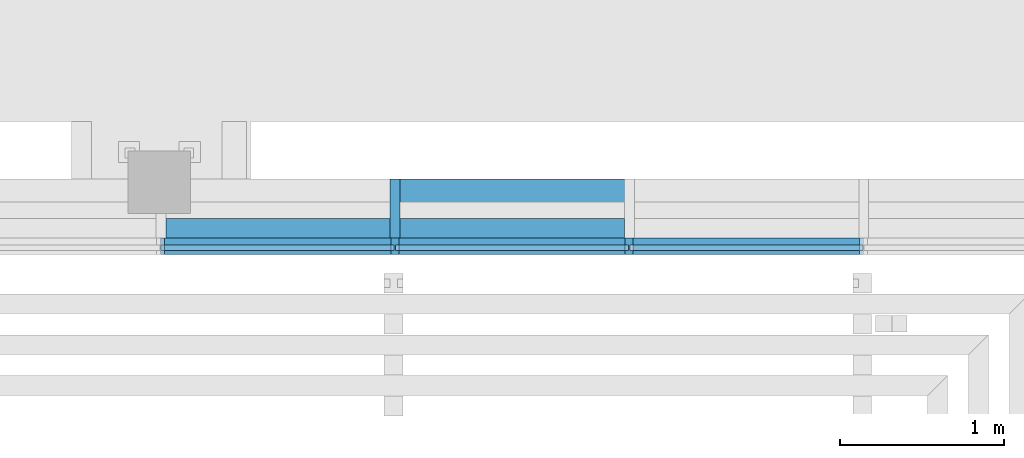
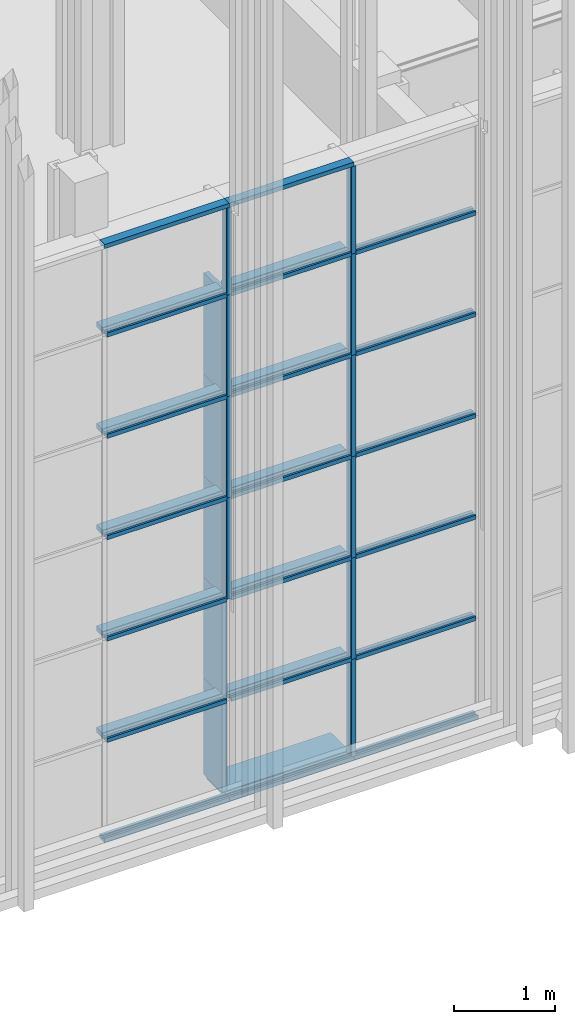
# One storey, part 17 of 260: 46 members, 2 elements without a shape of their own.
"""IFC2X3 building model written with IfcOpenShell, lengths in millimetres."""

from ifc_helpers import new_model, entity, si_unit, converted_unit, derived_unit, money_unit, direction, frame, origin_with_axes, place, context, subcontext, project, spatial, faceted_brep, source, transform, mapped, material, type_object, element, aggregate, save


model = new_model("IFC2X3")

# Units and contexts
model_context = context("Model", 3, precision=0.01, world=origin_with_axes(), true_north=direction((0.0, 1.0)))
body_context = subcontext(model_context, "Body", "Model", "MODEL_VIEW")
ifc_project = project(units=[si_unit("LENGTHUNIT", "METRE", prefix="MILLI"), si_unit("AREAUNIT", "SQUARE_METRE"), si_unit("VOLUMEUNIT", "CUBIC_METRE"), converted_unit("PLANEANGLEUNIT", "DEGREE", entity("IfcPlaneAngleMeasure", 0.0174532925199), si_unit("PLANEANGLEUNIT", "RADIAN"), dimensions=[0, 0, 0, 0, 0, 0, 0]), money_unit("EUR"), converted_unit("TIMEUNIT", "Year", entity("IfcTimeMeasure", 31556926.0), si_unit("TIMEUNIT", "SECOND"), dimensions=[0, 0, 1, 0, 0, 0, 0]), si_unit("MASSUNIT", "GRAM", prefix="KILO"), si_unit("THERMODYNAMICTEMPERATUREUNIT", "DEGREE_CELSIUS"), si_unit("LUMINOUSINTENSITYUNIT", "LUMEN"), si_unit("ENERGYUNIT", "JOULE", prefix="MEGA"), derived_unit("THERMALCONDUCTANCEUNIT", [(si_unit("POWERUNIT", "WATT"), 1), (si_unit("LENGTHUNIT", "METRE"), -1), (si_unit("THERMODYNAMICTEMPERATUREUNIT", "KELVIN"), -1)]), derived_unit("SPECIFICHEATCAPACITYUNIT", [(si_unit("ENERGYUNIT", "JOULE"), 1), (si_unit("MASSUNIT", "GRAM", prefix="KILO"), -1), (si_unit("THERMODYNAMICTEMPERATUREUNIT", "KELVIN"), -1)]), derived_unit("MASSDENSITYUNIT", [(si_unit("MASSUNIT", "GRAM", prefix="KILO"), 1), (si_unit("VOLUMEUNIT", "CUBIC_METRE"), -1)])], contexts=[model_context])

# Site, building, storey
site_placement = place(None, origin_with_axes())
site = spatial("IfcSite", under=ifc_project, at=site_placement, Name="Kolde pst 67a", CompositionType="ELEMENT")
building_placement = place(site_placement, origin_with_axes())
building = spatial("IfcBuilding", under=site, at=building_placement, Name="Riigigümnaasium", CompositionType="ELEMENT")
storey_placement = place(building_placement, origin_with_axes())
storey = spatial("IfcBuildingStorey", under=building, at=storey_placement, Name="1. korrus", CompositionType="ELEMENT", Elevation=0.0)

# Curtain wall, members
curtain_wall_type = type_object("IfcCurtainWallType", Name="Curtain Wall Type", PredefinedType="NOTDEFINED")
curtain_wall_1_placement = place(storey_placement, frame((47829.9854655, 8727.77020058, -0.000749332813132), z_axis=(0.0, 0.0, 1.0), x_axis=(1.0, 0.0, 0.0)))
curtain_wall_1 = element("IfcCurtainWall", 1, at=curtain_wall_1_placement, inside=storey, type_object=curtain_wall_type, Name="KLAASFASSAAD")
ifc_material_1 = material(Name="_METALL - alumiinium")
member_type_1 = type_object("IfcMemberType", Name="Mullion Frame 50 x 100", PredefinedType="MEMBER")
shared_shape_1 = source(origin_with_axes(), body_context, "Body", "Brep", [
    faceted_brep([(5.0, -16.5, 1230.00046362), (5.0, 16.5, 1230.00046362), (25.0, 16.5, 1230.00046362), (25.0, 40.0, 1230.00046362), (-25.0, 40.0, 1230.00046362), (-25.0, 16.5, 1230.00046362), (-5.0, 16.5, 1230.00046362), (-5.0, -16.5, 1230.00046362), (-25.0, -16.5, 1230.00046362), (-25.0, -60.0, 1230.00046362), (25.0, -60.0, 1230.00046362), (25.0, -16.5, 1230.00046362), (5.0, -16.5, 50.0), (5.0, 16.5, 50.0), (25.0, 16.5, 50.0), (25.0, 40.0, 50.0), (-25.0, 40.0, 50.0), (-25.0, 16.5, 50.0), (-5.0, 16.5, 50.0), (-5.0, -16.5, 50.0), (-25.0, -16.5, 50.0), (-25.0, -60.0, 50.0), (25.0, -60.0, 50.0), (25.0, -16.5, 50.0)], [[[0, 1, 2, 3, 4, 5, 6, 7, 8, 9, 10, 11]], [[0, 12, 13, 1]], [[1, 13, 14, 2]], [[14, 15, 3, 2]], [[4, 3, 15, 16]], [[17, 5, 4, 16]], [[5, 17, 18, 6]], [[7, 6, 18, 19]], [[8, 7, 19, 20]], [[8, 20, 21, 9]], [[10, 9, 21, 22]], [[11, 10, 22, 23]], [[11, 23, 12, 0]], [[13, 12, 23, 22, 21, 20, 19, 18, 17, 16, 15, 14]]]),
])
member_1_placement = place(curtain_wall_1_placement, frame((-2722.41506415, 15102.2610098, 0.000285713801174), z_axis=(0.0, 0.0, 1.0), x_axis=(0.999999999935, -1.14108152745e-05, 0.0)))
member_1 = element("IfcMember", 2, at=member_1_placement, type_object=member_type_1, material=ifc_material_1, Name="RF RAAM VERT-059", ObjectType="MEMBER", context=body_context, shape_type="MappedRepresentation", body=[
    mapped(shared_shape_1, transform((0.0, 0.0, 0.0), x_axis=(-1.0, 0.0, 0.0), y_axis=(0.0, -1.0, 0.0), z_axis=(0.0, 0.0, 1.0))),
])
shared_shape_2 = source(origin_with_axes(), body_context, "Body", "Brep", [
    faceted_brep([(5.0, -16.5, 1230.0), (5.0, 16.5, 1230.0), (25.0, 16.5, 1230.0), (25.0, 40.0, 1230.0), (-25.0, 40.0, 1230.0), (-25.0, 16.5, 1230.0), (-5.0, 16.5, 1230.0), (-5.0, -16.5, 1230.0), (-25.0, -16.5, 1230.0), (-25.0, -60.0, 1230.0), (25.0, -60.0, 1230.0), (25.0, -16.5, 1230.0), (5.0, -16.5, 0.0), (5.0, 16.5, 0.0), (25.0, 16.5, 0.0), (25.0, 40.0, 0.0), (-25.0, 40.0, 0.0), (-25.0, 16.5, 0.0), (-5.0, 16.5, 0.0), (-5.0, -16.5, 0.0), (-25.0, -16.5, 0.0), (-25.0, -60.0, 0.0), (25.0, -60.0, 0.0), (25.0, -16.5, 0.0)], [[[0, 1, 2, 3, 4, 5, 6, 7, 8, 9, 10, 11]], [[0, 12, 13, 1]], [[1, 13, 14, 2]], [[14, 15, 3, 2]], [[3, 15, 16, 4]], [[17, 5, 4, 16]], [[5, 17, 18, 6]], [[7, 6, 18, 19]], [[8, 7, 19, 20]], [[8, 20, 21, 9]], [[9, 21, 22, 10]], [[11, 10, 22, 23]], [[11, 23, 12, 0]], [[13, 12, 23, 22, 21, 20, 19, 18, 17, 16, 15, 14]]]),
])
member_2_placement = place(curtain_wall_1_placement, frame((-2722.41506415, 15102.2610098, 1230.00074933), z_axis=(0.0, 0.0, 1.0), x_axis=(0.999999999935, -1.14108152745e-05, 0.0)))
member_2 = element("IfcMember", 3, at=member_2_placement, type_object=member_type_1, material=ifc_material_1, Name="RF RAAM VERT-060", ObjectType="MEMBER", context=body_context, shape_type="MappedRepresentation", body=[
    mapped(shared_shape_2, transform((0.0, 0.0, 0.0), x_axis=(-1.0, 0.0, 0.0), y_axis=(0.0, -1.0, 0.0), z_axis=(0.0, 0.0, 1.0))),
])
member_3_placement = place(curtain_wall_1_placement, frame((-2722.41506415, 15102.2610098, 2460.00074933), z_axis=(0.0, 0.0, 1.0), x_axis=(0.999999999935, -1.14108152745e-05, 0.0)))
member_3 = element("IfcMember", 4, at=member_3_placement, type_object=member_type_1, material=ifc_material_1, Name="RF RAAM VERT-061", ObjectType="MEMBER", context=body_context, shape_type="MappedRepresentation", body=[
    mapped(shared_shape_2, transform((0.0, 0.0, 0.0), x_axis=(-1.0, 0.0, 0.0), y_axis=(0.0, -1.0, 0.0), z_axis=(0.0, 0.0, 1.0))),
])
member_4_placement = place(curtain_wall_1_placement, frame((-2722.41506415, 15102.2610098, 3690.00074933), z_axis=(0.0, 0.0, 1.0), x_axis=(0.999999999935, -1.14108152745e-05, 0.0)))
member_4 = element("IfcMember", 5, at=member_4_placement, type_object=member_type_1, material=ifc_material_1, Name="RF RAAM VERT-062", ObjectType="MEMBER", context=body_context, shape_type="MappedRepresentation", body=[
    mapped(shared_shape_2, transform((0.0, 0.0, 0.0), x_axis=(-1.0, 0.0, 0.0), y_axis=(0.0, -1.0, 0.0), z_axis=(0.0, 0.0, 1.0))),
])
member_5_placement = place(curtain_wall_1_placement, frame((-2722.41506415, 15102.2610098, 4920.00074933), z_axis=(0.0, 0.0, 1.0), x_axis=(0.999999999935, -1.14108152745e-05, 0.0)))
member_5 = element("IfcMember", 6, at=member_5_placement, type_object=member_type_1, material=ifc_material_1, Name="RF RAAM VERT-063", ObjectType="MEMBER", context=body_context, shape_type="MappedRepresentation", body=[
    mapped(shared_shape_2, transform((0.0, 0.0, 0.0), x_axis=(-1.0, 0.0, 0.0), y_axis=(0.0, -1.0, 0.0), z_axis=(0.0, 0.0, 1.0))),
])
member_6_placement = place(curtain_wall_1_placement, frame((-4152.41506405, 15102.2773272, 2460.00074933), z_axis=(0.0, 0.0, 1.0), x_axis=(0.999999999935, -1.14108152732e-05, 0.0)))
member_6 = element("IfcMember", 7, at=member_6_placement, type_object=member_type_1, material=ifc_material_1, Name="RF RAAM VERT-067", ObjectType="MEMBER", context=body_context, shape_type="MappedRepresentation", body=[
    mapped(shared_shape_2, transform((0.0, 0.0, 0.0), x_axis=(-1.0, 0.0, 0.0), y_axis=(0.0, -1.0, 0.0), z_axis=(0.0, 0.0, 1.0))),
])
member_7_placement = place(curtain_wall_1_placement, frame((-4152.41506405, 15102.2773272, 3690.00074933), z_axis=(0.0, 0.0, 1.0), x_axis=(0.999999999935, -1.14108152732e-05, 0.0)))
member_7 = element("IfcMember", 8, at=member_7_placement, type_object=member_type_1, material=ifc_material_1, Name="RF RAAM VERT-068", ObjectType="MEMBER", context=body_context, shape_type="MappedRepresentation", body=[
    mapped(shared_shape_2, transform((0.0, 0.0, 0.0), x_axis=(-1.0, 0.0, 0.0), y_axis=(0.0, -1.0, 0.0), z_axis=(0.0, 0.0, 1.0))),
])
member_8_placement = place(curtain_wall_1_placement, frame((-4152.41506405, 15102.2773272, 4920.00074933), z_axis=(0.0, 0.0, 1.0), x_axis=(0.999999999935, -1.14108152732e-05, 0.0)))
member_8 = element("IfcMember", 9, at=member_8_placement, type_object=member_type_1, material=ifc_material_1, Name="RF RAAM VERT-069", ObjectType="MEMBER", context=body_context, shape_type="MappedRepresentation", body=[
    mapped(shared_shape_2, transform((0.0, 0.0, 0.0), x_axis=(-1.0, 0.0, 0.0), y_axis=(0.0, -1.0, 0.0), z_axis=(0.0, 0.0, 1.0))),
])
member_type_2 = type_object("IfcMemberType", Name="Boundary Frame 50 x 100", PredefinedType="MEMBER")
shared_shape_3 = source(origin_with_axes(), body_context, "Body", "Brep", [
    faceted_brep([(-30.0, -16.5, 1430.0), (-50.0, -16.5, 1430.0), (-50.0, -60.0, 1430.0), (0.0, -60.0, 1430.0), (0.0, 40.0, 1430.0), (-50.0, 40.0, 1430.0), (-50.0, 16.5, 1430.0), (-30.0, 16.5, 1430.0), (-30.0, -16.5, 0.0), (-50.0, -16.5, 0.0), (-50.0, -60.0, 0.0), (0.0, -60.0, 0.0), (0.0, 40.0, 0.0), (-50.0, 40.0, 0.0), (-50.0, 16.5, 0.0), (-30.0, 16.5, 0.0)], [[[0, 1, 2, 3, 4, 5, 6, 7]], [[0, 8, 9, 1]], [[9, 10, 2, 1]], [[10, 11, 3, 2]], [[11, 12, 4, 3]], [[12, 13, 5, 4]], [[6, 5, 13, 14]], [[14, 15, 7, 6]], [[7, 15, 8, 0]], [[8, 15, 14, 13, 12, 11, 10, 9]]]),
])
member_9_placement = place(curtain_wall_1_placement, frame((-1292.41506424, 15102.2446923, 0.000285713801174), z_axis=(-0.999999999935, 1.14108152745e-05, 0.0), x_axis=(0.0, 0.0, 1.0)))
member_9 = element("IfcMember", 10, at=member_9_placement, type_object=member_type_2, material=ifc_material_1, Name="RF RAAM SERV-590", ObjectType="MEMBER", context=body_context, shape_type="MappedRepresentation", body=[
    mapped(shared_shape_3, transform((0.0, 0.0, 0.0), x_axis=(-1.0, 0.0, 0.0), y_axis=(0.0, -1.0, 0.0), z_axis=(0.0, 0.0, 1.0))),
])
member_10_placement = place(curtain_wall_1_placement, frame((-2722.41506415, 15102.2610098, 0.000285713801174), z_axis=(-0.999999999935, 1.14108152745e-05, 0.0), x_axis=(0.0, 0.0, 1.0)))
member_10 = element("IfcMember", 11, at=member_10_placement, type_object=member_type_2, material=ifc_material_1, Name="RF RAAM SERV-591", ObjectType="MEMBER", context=body_context, shape_type="MappedRepresentation", body=[
    mapped(shared_shape_3, transform((0.0, 0.0, 0.0), x_axis=(-1.0, 0.0, 0.0), y_axis=(0.0, -1.0, 0.0), z_axis=(0.0, 0.0, 1.0))),
])
member_11_placement = place(curtain_wall_1_placement, frame((-4152.41506405, 15102.2773272, 0.000285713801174), z_axis=(-0.999999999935, 1.1410815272e-05, 0.0), x_axis=(0.0, 0.0, 1.0)))
member_11 = element("IfcMember", 12, at=member_11_placement, type_object=member_type_2, material=ifc_material_1, Name="RF RAAM SERV-592", ObjectType="MEMBER", context=body_context, shape_type="MappedRepresentation", body=[
    mapped(shared_shape_3, transform((0.0, 0.0, 0.0), x_axis=(-1.0, 0.0, 0.0), y_axis=(0.0, -1.0, 0.0), z_axis=(0.0, 0.0, 1.0))),
])
member_12_placement = place(curtain_wall_1_placement, frame((-4152.41506405, 15102.2773272, 7259.99992735), z_axis=(0.999999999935, -1.14108152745e-05, 0.0), x_axis=(0.0, 0.0, -1.0)))
member_12 = element("IfcMember", 13, at=member_12_placement, type_object=member_type_2, material=ifc_material_1, Name="RF RAAM SERV-626", ObjectType="MEMBER", context=body_context, shape_type="MappedRepresentation", body=[
    mapped(shared_shape_3, transform((0.0, 0.0, 0.0), x_axis=(-1.0, 0.0, 0.0), y_axis=(0.0, -1.0, 0.0), z_axis=(0.0, 0.0, 1.0))),
])
member_13_placement = place(curtain_wall_1_placement, frame((-5582.41506396, 15102.2936447, 7259.99992735), z_axis=(0.999999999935, -1.1410815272e-05, 0.0), x_axis=(0.0, 0.0, -1.0)))
member_13 = element("IfcMember", 14, at=member_13_placement, type_object=member_type_2, material=ifc_material_1, Name="RF RAAM SERV-625", ObjectType="MEMBER", context=body_context, shape_type="MappedRepresentation", body=[
    mapped(shared_shape_3, transform((0.0, 0.0, 0.0), x_axis=(-1.0, 0.0, 0.0), y_axis=(0.0, -1.0, 0.0), z_axis=(0.0, 0.0, 1.0))),
])
member_type_3 = type_object("IfcMemberType", Name="Transom Frame 50 x 100", PredefinedType="MEMBER")
shared_shape_4 = source(origin_with_axes(), body_context, "Body", "Brep", [
    faceted_brep([(5.0, -16.5, 1405.0), (5.0, 16.5, 1405.0), (25.0, 16.5, 1405.0), (25.0, 40.0, 1405.0), (-25.0, 40.0, 1405.0), (-25.0, 16.5, 1405.0), (-5.0, 16.5, 1405.0), (-5.0, -16.5, 1405.0), (-25.0, -16.5, 1405.0), (-25.0, -60.0, 1405.0), (25.0, -60.0, 1405.0), (25.0, -16.5, 1405.0), (5.0, -16.5, 25.0), (5.0, 16.5, 25.0), (25.0, 16.5, 25.0), (25.0, 40.0, 25.0), (-25.0, 40.0, 25.0), (-25.0, 16.5, 25.0), (-5.0, 16.5, 25.0), (-5.0, -16.5, 25.0), (-25.0, -16.5, 25.0), (-25.0, -60.0, 25.0), (25.0, -60.0, 25.0), (25.0, -16.5, 25.0)], [[[0, 1, 2, 3, 4, 5, 6, 7, 8, 9, 10, 11]], [[0, 12, 13, 1]], [[1, 13, 14, 2]], [[14, 15, 3, 2]], [[4, 3, 15, 16]], [[17, 5, 4, 16]], [[5, 17, 18, 6]], [[7, 6, 18, 19]], [[8, 7, 19, 20]], [[8, 20, 21, 9]], [[10, 9, 21, 22]], [[11, 10, 22, 23]], [[11, 23, 12, 0]], [[13, 12, 23, 22, 21, 20, 19, 18, 17, 16, 15, 14]]]),
])
member_14_placement = place(curtain_wall_1_placement, frame((-1292.41506424, 15102.2446923, 1230.00074933), z_axis=(-0.999999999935, 1.14108152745e-05, 0.0), x_axis=(0.0, 0.0, 1.0)))
member_14 = element("IfcMember", 15, at=member_14_placement, type_object=member_type_3, material=ifc_material_1, Name="RF RAAM HOR-026", ObjectType="MEMBER", context=body_context, shape_type="MappedRepresentation", body=[
    mapped(shared_shape_4, transform((0.0, 0.0, 0.0), x_axis=(-1.0, 0.0, 0.0), y_axis=(0.0, -1.0, 0.0), z_axis=(0.0, 0.0, 1.0))),
])
member_15_placement = place(curtain_wall_1_placement, frame((-2722.41506415, 15102.2610098, 1230.00074933), z_axis=(-0.999999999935, 1.14108152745e-05, 0.0), x_axis=(0.0, 0.0, 1.0)))
member_15 = element("IfcMember", 16, at=member_15_placement, type_object=member_type_3, material=ifc_material_1, Name="RF RAAM HOR-027", ObjectType="MEMBER", context=body_context, shape_type="MappedRepresentation", body=[
    mapped(shared_shape_4, transform((0.0, 0.0, 0.0), x_axis=(-1.0, 0.0, 0.0), y_axis=(0.0, -1.0, 0.0), z_axis=(0.0, 0.0, 1.0))),
])
member_16_placement = place(curtain_wall_1_placement, frame((-4152.41506405, 15102.2773272, 1230.00074933), z_axis=(-0.999999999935, 1.1410815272e-05, 0.0), x_axis=(0.0, 0.0, 1.0)))
member_16 = element("IfcMember", 17, at=member_16_placement, type_object=member_type_3, material=ifc_material_1, Name="RF RAAM HOR-028", ObjectType="MEMBER", context=body_context, shape_type="MappedRepresentation", body=[
    mapped(shared_shape_4, transform((0.0, 0.0, 0.0), x_axis=(-1.0, 0.0, 0.0), y_axis=(0.0, -1.0, 0.0), z_axis=(0.0, 0.0, 1.0))),
])
member_17_placement = place(curtain_wall_1_placement, frame((-1292.41506424, 15102.2446923, 2460.00074933), z_axis=(-0.999999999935, 1.14108152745e-05, 0.0), x_axis=(0.0, 0.0, 1.0)))
member_17 = element("IfcMember", 18, at=member_17_placement, type_object=member_type_3, material=ifc_material_1, Name="RF RAAM HOR-043", ObjectType="MEMBER", context=body_context, shape_type="MappedRepresentation", body=[
    mapped(shared_shape_4, transform((0.0, 0.0, 0.0), x_axis=(-1.0, 0.0, 0.0), y_axis=(0.0, -1.0, 0.0), z_axis=(0.0, 0.0, 1.0))),
])
member_18_placement = place(curtain_wall_1_placement, frame((-2722.41506415, 15102.2610098, 2460.00074933), z_axis=(-0.999999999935, 1.14108152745e-05, 0.0), x_axis=(0.0, 0.0, 1.0)))
member_18 = element("IfcMember", 19, at=member_18_placement, type_object=member_type_3, material=ifc_material_1, Name="RF RAAM HOR-044", ObjectType="MEMBER", context=body_context, shape_type="MappedRepresentation", body=[
    mapped(shared_shape_4, transform((0.0, 0.0, 0.0), x_axis=(-1.0, 0.0, 0.0), y_axis=(0.0, -1.0, 0.0), z_axis=(0.0, 0.0, 1.0))),
])
member_19_placement = place(curtain_wall_1_placement, frame((-4152.41506405, 15102.2773272, 2460.00074933), z_axis=(-0.999999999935, 1.1410815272e-05, 0.0), x_axis=(0.0, 0.0, 1.0)))
member_19 = element("IfcMember", 20, at=member_19_placement, type_object=member_type_3, material=ifc_material_1, Name="RF RAAM HOR-045", ObjectType="MEMBER", context=body_context, shape_type="MappedRepresentation", body=[
    mapped(shared_shape_4, transform((0.0, 0.0, 0.0), x_axis=(-1.0, 0.0, 0.0), y_axis=(0.0, -1.0, 0.0), z_axis=(0.0, 0.0, 1.0))),
])
member_20_placement = place(curtain_wall_1_placement, frame((-1292.41506424, 15102.2446923, 3690.00074933), z_axis=(-0.999999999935, 1.14108152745e-05, 0.0), x_axis=(0.0, 0.0, 1.0)))
member_20 = element("IfcMember", 21, at=member_20_placement, type_object=member_type_3, material=ifc_material_1, Name="RF RAAM HOR-060", ObjectType="MEMBER", context=body_context, shape_type="MappedRepresentation", body=[
    mapped(shared_shape_4, transform((0.0, 0.0, 0.0), x_axis=(-1.0, 0.0, 0.0), y_axis=(0.0, -1.0, 0.0), z_axis=(0.0, 0.0, 1.0))),
])
member_21_placement = place(curtain_wall_1_placement, frame((-2722.41506415, 15102.2610098, 3690.00074933), z_axis=(-0.999999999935, 1.14108152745e-05, 0.0), x_axis=(0.0, 0.0, 1.0)))
member_21 = element("IfcMember", 22, at=member_21_placement, type_object=member_type_3, material=ifc_material_1, Name="RF RAAM HOR-061", ObjectType="MEMBER", context=body_context, shape_type="MappedRepresentation", body=[
    mapped(shared_shape_4, transform((0.0, 0.0, 0.0), x_axis=(-1.0, 0.0, 0.0), y_axis=(0.0, -1.0, 0.0), z_axis=(0.0, 0.0, 1.0))),
])
member_22_placement = place(curtain_wall_1_placement, frame((-4152.41506405, 15102.2773272, 3690.00074933), z_axis=(-0.999999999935, 1.1410815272e-05, 0.0), x_axis=(0.0, 0.0, 1.0)))
member_22 = element("IfcMember", 23, at=member_22_placement, type_object=member_type_3, material=ifc_material_1, Name="RF RAAM HOR-062", ObjectType="MEMBER", context=body_context, shape_type="MappedRepresentation", body=[
    mapped(shared_shape_4, transform((0.0, 0.0, 0.0), x_axis=(-1.0, 0.0, 0.0), y_axis=(0.0, -1.0, 0.0), z_axis=(0.0, 0.0, 1.0))),
])
member_23_placement = place(curtain_wall_1_placement, frame((-1292.41506424, 15102.2446923, 4920.00074933), z_axis=(-0.999999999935, 1.14108152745e-05, 0.0), x_axis=(0.0, 0.0, 1.0)))
member_23 = element("IfcMember", 24, at=member_23_placement, type_object=member_type_3, material=ifc_material_1, Name="RF RAAM HOR-077", ObjectType="MEMBER", context=body_context, shape_type="MappedRepresentation", body=[
    mapped(shared_shape_4, transform((0.0, 0.0, 0.0), x_axis=(-1.0, 0.0, 0.0), y_axis=(0.0, -1.0, 0.0), z_axis=(0.0, 0.0, 1.0))),
])
member_24_placement = place(curtain_wall_1_placement, frame((-2722.41506415, 15102.2610098, 4920.00074933), z_axis=(-0.999999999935, 1.14108152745e-05, 0.0), x_axis=(0.0, 0.0, 1.0)))
member_24 = element("IfcMember", 25, at=member_24_placement, type_object=member_type_3, material=ifc_material_1, Name="RF RAAM HOR-078", ObjectType="MEMBER", context=body_context, shape_type="MappedRepresentation", body=[
    mapped(shared_shape_4, transform((0.0, 0.0, 0.0), x_axis=(-1.0, 0.0, 0.0), y_axis=(0.0, -1.0, 0.0), z_axis=(0.0, 0.0, 1.0))),
])
member_25_placement = place(curtain_wall_1_placement, frame((-4152.41506405, 15102.2773272, 4920.00074933), z_axis=(-0.999999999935, 1.1410815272e-05, 0.0), x_axis=(0.0, 0.0, 1.0)))
member_25 = element("IfcMember", 26, at=member_25_placement, type_object=member_type_3, material=ifc_material_1, Name="RF RAAM HOR-079", ObjectType="MEMBER", context=body_context, shape_type="MappedRepresentation", body=[
    mapped(shared_shape_4, transform((0.0, 0.0, 0.0), x_axis=(-1.0, 0.0, 0.0), y_axis=(0.0, -1.0, 0.0), z_axis=(0.0, 0.0, 1.0))),
])
member_26_placement = place(curtain_wall_1_placement, frame((-1292.41506424, 15102.2446923, 6150.00074933), z_axis=(-0.999999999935, 1.14108152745e-05, 0.0), x_axis=(0.0, 0.0, 1.0)))
member_26 = element("IfcMember", 27, at=member_26_placement, type_object=member_type_3, material=ifc_material_1, Name="RF RAAM HOR-094", ObjectType="MEMBER", context=body_context, shape_type="MappedRepresentation", body=[
    mapped(shared_shape_4, transform((0.0, 0.0, 0.0), x_axis=(-1.0, 0.0, 0.0), y_axis=(0.0, -1.0, 0.0), z_axis=(0.0, 0.0, 1.0))),
])
member_27_placement = place(curtain_wall_1_placement, frame((-2722.41506415, 15102.2610098, 6150.00074933), z_axis=(-0.999999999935, 1.14108152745e-05, 0.0), x_axis=(0.0, 0.0, 1.0)))
member_27 = element("IfcMember", 28, at=member_27_placement, type_object=member_type_3, material=ifc_material_1, Name="RF RAAM HOR-095", ObjectType="MEMBER", context=body_context, shape_type="MappedRepresentation", body=[
    mapped(shared_shape_4, transform((0.0, 0.0, 0.0), x_axis=(-1.0, 0.0, 0.0), y_axis=(0.0, -1.0, 0.0), z_axis=(0.0, 0.0, 1.0))),
])
member_28_placement = place(curtain_wall_1_placement, frame((-4152.41506405, 15102.2773272, 6150.00074933), z_axis=(-0.999999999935, 1.1410815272e-05, 0.0), x_axis=(0.0, 0.0, 1.0)))
member_28 = element("IfcMember", 29, at=member_28_placement, type_object=member_type_3, material=ifc_material_1, Name="RF RAAM HOR-096", ObjectType="MEMBER", context=body_context, shape_type="MappedRepresentation", body=[
    mapped(shared_shape_4, transform((0.0, 0.0, 0.0), x_axis=(-1.0, 0.0, 0.0), y_axis=(0.0, -1.0, 0.0), z_axis=(0.0, 0.0, 1.0))),
])
shared_shape_5 = source(origin_with_axes(), body_context, "Body", "Brep", [
    faceted_brep([(5.0, -16.5, 1059.99917802), (5.0, 16.5, 1059.99917802), (25.0, 16.5, 1059.99917802), (25.0, 40.0, 1059.99917802), (-25.0, 40.0, 1059.99917802), (-25.0, 16.5, 1059.99917802), (-5.0, 16.5, 1059.99917802), (-5.0, -16.5, 1059.99917802), (-25.0, -16.5, 1059.99917802), (-25.0, -60.0, 1059.99917802), (25.0, -60.0, 1059.99917802), (25.0, -16.5, 1059.99917802), (5.0, -16.5, 0.0), (5.0, 16.5, 0.0), (25.0, 16.5, 0.0), (25.0, 40.0, 0.0), (-25.0, 40.0, 0.0), (-25.0, 16.5, 0.0), (-5.0, 16.5, 0.0), (-5.0, -16.5, 0.0), (-25.0, -16.5, 0.0), (-25.0, -60.0, 0.0), (25.0, -60.0, 0.0), (25.0, -16.5, 0.0)], [[[0, 1, 2, 3, 4, 5, 6, 7, 8, 9, 10, 11]], [[0, 12, 13, 1]], [[1, 13, 14, 2]], [[14, 15, 3, 2]], [[3, 15, 16, 4]], [[17, 5, 4, 16]], [[5, 17, 18, 6]], [[7, 6, 18, 19]], [[8, 7, 19, 20]], [[8, 20, 21, 9]], [[9, 21, 22, 10]], [[11, 10, 22, 23]], [[11, 23, 12, 0]], [[13, 12, 23, 22, 21, 20, 19, 18, 17, 16, 15, 14]]]),
])
member_29_placement = place(curtain_wall_1_placement, frame((-2722.41506415, 15102.2610098, 6150.00074933), z_axis=(0.0, 0.0, 1.0), x_axis=(0.999999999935, -1.14108152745e-05, 0.0)))
member_29 = element("IfcMember", 30, at=member_29_placement, type_object=member_type_1, material=ifc_material_1, Name="RF RAAM VERT-075", ObjectType="MEMBER", context=body_context, shape_type="MappedRepresentation", body=[
    mapped(shared_shape_5, transform((0.0, 0.0, 0.0), x_axis=(-1.0, 0.0, 0.0), y_axis=(0.0, -1.0, 0.0), z_axis=(0.0, 0.0, 1.0))),
])
member_30_placement = place(curtain_wall_1_placement, frame((-4152.41506405, 15102.2773272, 6150.00074933), z_axis=(0.0, 0.0, 1.0), x_axis=(0.999999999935, -1.14108152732e-05, 0.0)))
member_30 = element("IfcMember", 31, at=member_30_placement, type_object=member_type_1, material=ifc_material_1, Name="RF RAAM VERT-076", ObjectType="MEMBER", context=body_context, shape_type="MappedRepresentation", body=[
    mapped(shared_shape_5, transform((0.0, 0.0, 0.0), x_axis=(-1.0, 0.0, 0.0), y_axis=(0.0, -1.0, 0.0), z_axis=(0.0, 0.0, 1.0))),
])
aggregate(curtain_wall_1, [member_1, member_2, member_3, member_4, member_5, member_6, member_7, member_8, member_9, member_10, member_11, member_14, member_15, member_16, member_17, member_18, member_19, member_20, member_21, member_22, member_23, member_24, member_25, member_26, member_27, member_28, member_29, member_30, member_12, member_13])

curtain_wall_2_placement = place(storey_placement, frame((23890.0026791, 27220.1832522, -0.000253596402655), z_axis=(0.0, 0.0, 1.0), x_axis=(1.0, 0.0, 0.0)))
curtain_wall_2 = element("IfcCurtainWall", 32, at=curtain_wall_2_placement, inside=storey, type_object=curtain_wall_type, Name="Klaasfassaadi puitkarkass")
ifc_material_2 = material(Name="_KANDETARIND - liimpuit vastavalt EK osale")
member_type_4 = type_object("IfcMemberType", Name="Transom Frame 60 x 120", PredefinedType="MEMBER")
shared_shape_6 = source(origin_with_axes(), body_context, "Body", "Brep", [
    faceted_brep([(-30.0, 0.0, 30.0), (-30.0, -120.0, 30.0), (-30.0, -120.0, 1400.0), (-30.0, 0.0, 1400.0), (30.0, 0.0, 30.0), (30.0, -120.0, 30.0), (30.0, -120.0, 1400.0), (30.0, 0.0, 1400.0)], [[[0, 1, 2, 3]], [[1, 0, 4, 5]], [[1, 5, 6, 2]], [[2, 6, 7, 3]], [[4, 0, 3, 7]], [[5, 4, 7, 6]]]),
])
member_31_placement = place(curtain_wall_2_placement, frame((21219.3770557, -3330.16844532, 1230.0002536), z_axis=(-1.0, 0.0, 0.0), x_axis=(0.0, 0.0, 1.0)))
member_31 = element("IfcMember", 33, at=member_31_placement, type_object=member_type_4, material=ifc_material_2, Name="RF RAAM HOR-648", ObjectType="MEMBER", context=body_context, shape_type="MappedRepresentation", body=[
    mapped(shared_shape_6, transform((0.0, 0.0, 0.0), x_axis=(-1.0, 0.0, 0.0), y_axis=(0.0, -1.0, 0.0), z_axis=(0.0, 0.0, 1.0))),
])
member_32_placement = place(curtain_wall_2_placement, frame((19789.3770557, -3330.16844545, 1230.0002536), z_axis=(-1.0, 0.0, 0.0), x_axis=(0.0, 0.0, 1.0)))
member_32 = element("IfcMember", 34, at=member_32_placement, type_object=member_type_4, material=ifc_material_2, Name="RF RAAM HOR-648", ObjectType="MEMBER", context=body_context, shape_type="MappedRepresentation", body=[
    mapped(shared_shape_6, transform((0.0, 0.0, 0.0), x_axis=(-1.0, 0.0, 0.0), y_axis=(0.0, -1.0, 0.0), z_axis=(0.0, 0.0, 1.0))),
])
member_33_placement = place(curtain_wall_2_placement, frame((21219.3770557, -3330.16844532, 2460.0002536), z_axis=(-1.0, 0.0, 0.0), x_axis=(0.0, 0.0, 1.0)))
member_33 = element("IfcMember", 35, at=member_33_placement, type_object=member_type_4, material=ifc_material_2, Name="RF RAAM HOR-648", ObjectType="MEMBER", context=body_context, shape_type="MappedRepresentation", body=[
    mapped(shared_shape_6, transform((0.0, 0.0, 0.0), x_axis=(-1.0, 0.0, 0.0), y_axis=(0.0, -1.0, 0.0), z_axis=(0.0, 0.0, 1.0))),
])
member_34_placement = place(curtain_wall_2_placement, frame((19789.3770557, -3330.16844545, 2460.0002536), z_axis=(-1.0, 0.0, 0.0), x_axis=(0.0, 0.0, 1.0)))
member_34 = element("IfcMember", 36, at=member_34_placement, type_object=member_type_4, material=ifc_material_2, Name="RF RAAM HOR-648", ObjectType="MEMBER", context=body_context, shape_type="MappedRepresentation", body=[
    mapped(shared_shape_6, transform((0.0, 0.0, 0.0), x_axis=(-1.0, 0.0, 0.0), y_axis=(0.0, -1.0, 0.0), z_axis=(0.0, 0.0, 1.0))),
])
member_35_placement = place(curtain_wall_2_placement, frame((21219.3770557, -3330.16844532, 3690.0002536), z_axis=(-1.0, 0.0, 0.0), x_axis=(0.0, 0.0, 1.0)))
member_35 = element("IfcMember", 37, at=member_35_placement, type_object=member_type_4, material=ifc_material_2, Name="RF RAAM HOR-648", ObjectType="MEMBER", context=body_context, shape_type="MappedRepresentation", body=[
    mapped(shared_shape_6, transform((0.0, 0.0, 0.0), x_axis=(-1.0, 0.0, 0.0), y_axis=(0.0, -1.0, 0.0), z_axis=(0.0, 0.0, 1.0))),
])
member_36_placement = place(curtain_wall_2_placement, frame((19789.3770557, -3330.16844545, 3690.0002536), z_axis=(-1.0, 0.0, 0.0), x_axis=(0.0, 0.0, 1.0)))
member_36 = element("IfcMember", 38, at=member_36_placement, type_object=member_type_4, material=ifc_material_2, Name="RF RAAM HOR-648", ObjectType="MEMBER", context=body_context, shape_type="MappedRepresentation", body=[
    mapped(shared_shape_6, transform((0.0, 0.0, 0.0), x_axis=(-1.0, 0.0, 0.0), y_axis=(0.0, -1.0, 0.0), z_axis=(0.0, 0.0, 1.0))),
])
member_37_placement = place(curtain_wall_2_placement, frame((21219.3770557, -3330.16844532, 4920.0002536), z_axis=(-1.0, 0.0, 0.0), x_axis=(0.0, 0.0, 1.0)))
member_37 = element("IfcMember", 39, at=member_37_placement, type_object=member_type_4, material=ifc_material_2, Name="RF RAAM HOR-648", ObjectType="MEMBER", context=body_context, shape_type="MappedRepresentation", body=[
    mapped(shared_shape_6, transform((0.0, 0.0, 0.0), x_axis=(-1.0, 0.0, 0.0), y_axis=(0.0, -1.0, 0.0), z_axis=(0.0, 0.0, 1.0))),
])
member_38_placement = place(curtain_wall_2_placement, frame((19789.3770557, -3330.16844545, 4920.0002536), z_axis=(-1.0, 0.0, 0.0), x_axis=(0.0, 0.0, 1.0)))
member_38 = element("IfcMember", 40, at=member_38_placement, type_object=member_type_4, material=ifc_material_2, Name="RF RAAM HOR-648", ObjectType="MEMBER", context=body_context, shape_type="MappedRepresentation", body=[
    mapped(shared_shape_6, transform((0.0, 0.0, 0.0), x_axis=(-1.0, 0.0, 0.0), y_axis=(0.0, -1.0, 0.0), z_axis=(0.0, 0.0, 1.0))),
])
member_39_placement = place(curtain_wall_2_placement, frame((21219.3770557, -3330.16844532, 6150.0002536), z_axis=(-1.0, 0.0, 0.0), x_axis=(0.0, 0.0, 1.0)))
member_39 = element("IfcMember", 41, at=member_39_placement, type_object=member_type_4, material=ifc_material_2, Name="RF RAAM HOR-648", ObjectType="MEMBER", context=body_context, shape_type="MappedRepresentation", body=[
    mapped(shared_shape_6, transform((0.0, 0.0, 0.0), x_axis=(-1.0, 0.0, 0.0), y_axis=(0.0, -1.0, 0.0), z_axis=(0.0, 0.0, 1.0))),
])
member_40_placement = place(curtain_wall_2_placement, frame((19789.3770557, -3330.16844545, 6150.0002536), z_axis=(-1.0, 0.0, 0.0), x_axis=(0.0, 0.0, 1.0)))
member_40 = element("IfcMember", 42, at=member_40_placement, type_object=member_type_4, material=ifc_material_2, Name="RF RAAM HOR-648", ObjectType="MEMBER", context=body_context, shape_type="MappedRepresentation", body=[
    mapped(shared_shape_6, transform((0.0, 0.0, 0.0), x_axis=(-1.0, 0.0, 0.0), y_axis=(0.0, -1.0, 0.0), z_axis=(0.0, 0.0, 1.0))),
])
member_type_5 = type_object("IfcMemberType", Name="Mullion Frame 60 x 360", PredefinedType="MEMBER")
shared_shape_7 = source(origin_with_axes(), body_context, "Body", "Brep", [
    faceted_brep([(-30.0, 0.0, 60.0), (-30.0, -360.0, 60.0), (-30.0, -360.0, 1230.0002536), (-30.0, 0.0, 1230.0002536), (30.0, 0.0, 60.0), (30.0, -360.0, 60.0), (30.0, -360.0, 1230.0002536), (30.0, 0.0, 1230.0002536)], [[[0, 1, 2, 3]], [[1, 0, 4, 5]], [[1, 5, 6, 2]], [[2, 6, 7, 3]], [[4, 0, 3, 7]], [[5, 4, 7, 6]]]),
])
member_41_placement = place(curtain_wall_2_placement, frame((19789.3770557, -3330.16844545, 0.000124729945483), z_axis=(0.0, 0.0, 1.0), x_axis=(1.0, 0.0, 0.0)))
member_41 = element("IfcMember", 43, at=member_41_placement, type_object=member_type_5, material=ifc_material_2, Name="RF RAAM VERT-837", ObjectType="MEMBER", context=body_context, shape_type="MappedRepresentation", body=[
    mapped(shared_shape_7, transform((0.0, 0.0, 0.0), x_axis=(-1.0, 0.0, 0.0), y_axis=(0.0, -1.0, 0.0), z_axis=(0.0, 0.0, 1.0))),
])
shared_shape_8 = source(origin_with_axes(), body_context, "Body", "Brep", [
    faceted_brep([(-30.0, -360.0, 0.0), (-30.0, -360.0, 1230.0), (-30.0, 0.0, 1230.0), (-30.0, 0.0, 0.0), (30.0, -360.0, 0.0), (30.0, -360.0, 1230.0), (30.0, 0.0, 1230.0), (30.0, 0.0, 0.0)], [[[0, 1, 2, 3]], [[4, 5, 1, 0]], [[1, 5, 6, 2]], [[3, 2, 6, 7]], [[0, 3, 7, 4]], [[7, 6, 5, 4]]]),
])
member_42_placement = place(curtain_wall_2_placement, frame((19789.3770557, -3330.16844545, 1230.0002536), z_axis=(0.0, 0.0, 1.0), x_axis=(1.0, 0.0, 0.0)))
member_42 = element("IfcMember", 44, at=member_42_placement, type_object=member_type_5, material=ifc_material_2, Name="RF RAAM VERT-837", ObjectType="MEMBER", context=body_context, shape_type="MappedRepresentation", body=[
    mapped(shared_shape_8, transform((0.0, 0.0, 0.0), x_axis=(-1.0, 0.0, 0.0), y_axis=(0.0, -1.0, 0.0), z_axis=(0.0, 0.0, 1.0))),
])
member_43_placement = place(curtain_wall_2_placement, frame((19789.3770557, -3330.16844545, 2460.0002536), z_axis=(0.0, 0.0, 1.0), x_axis=(1.0, 0.0, 0.0)))
member_43 = element("IfcMember", 45, at=member_43_placement, type_object=member_type_5, material=ifc_material_2, Name="RF RAAM VERT-837", ObjectType="MEMBER", context=body_context, shape_type="MappedRepresentation", body=[
    mapped(shared_shape_8, transform((0.0, 0.0, 0.0), x_axis=(-1.0, 0.0, 0.0), y_axis=(0.0, -1.0, 0.0), z_axis=(0.0, 0.0, 1.0))),
])
member_44_placement = place(curtain_wall_2_placement, frame((19789.3770557, -3330.16844545, 3690.0002536), z_axis=(0.0, 0.0, 1.0), x_axis=(1.0, 0.0, 0.0)))
member_44 = element("IfcMember", 46, at=member_44_placement, type_object=member_type_5, material=ifc_material_2, Name="RF RAAM VERT-837", ObjectType="MEMBER", context=body_context, shape_type="MappedRepresentation", body=[
    mapped(shared_shape_8, transform((0.0, 0.0, 0.0), x_axis=(-1.0, 0.0, 0.0), y_axis=(0.0, -1.0, 0.0), z_axis=(0.0, 0.0, 1.0))),
])
member_45_placement = place(curtain_wall_2_placement, frame((19789.3770557, -3330.16844545, 4920.0002536), z_axis=(0.0, 0.0, 1.0), x_axis=(1.0, 0.0, 0.0)))
member_45 = element("IfcMember", 47, at=member_45_placement, type_object=member_type_5, material=ifc_material_2, Name="RF RAAM VERT-837", ObjectType="MEMBER", context=body_context, shape_type="MappedRepresentation", body=[
    mapped(shared_shape_8, transform((0.0, 0.0, 0.0), x_axis=(-1.0, 0.0, 0.0), y_axis=(0.0, -1.0, 0.0), z_axis=(0.0, 0.0, 1.0))),
])
member_type_6 = type_object("IfcMemberType", Name="Boundary Frame 60 x 360", PredefinedType="MEMBER")
shared_shape_9 = source(origin_with_axes(), body_context, "Body", "Brep", [
    faceted_brep([(-60.0, -360.0, 0.0), (-60.0, -360.0, 1430.0), (-60.0, 0.0, 1430.0), (-60.0, 0.0, 0.0), (0.0, -360.0, 0.0), (0.0, -360.0, 1430.0), (0.0, 0.0, 1430.0), (0.0, 0.0, 0.0)], [[[0, 1, 2, 3]], [[4, 5, 1, 0]], [[1, 5, 6, 2]], [[3, 2, 6, 7]], [[0, 3, 7, 4]], [[7, 6, 5, 4]]]),
])
member_46_placement = place(curtain_wall_2_placement, frame((21219.3770557, -3330.16844532, 0.000124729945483), z_axis=(-1.0, 0.0, 0.0), x_axis=(0.0, 0.0, 1.0)))
member_46 = element("IfcMember", 48, at=member_46_placement, type_object=member_type_6, material=ifc_material_2, Name="RF RAAM SERV-664", ObjectType="MEMBER", context=body_context, shape_type="MappedRepresentation", body=[
    mapped(shared_shape_9, transform((0.0, 0.0, 0.0), x_axis=(-1.0, 0.0, 0.0), y_axis=(0.0, -1.0, 0.0), z_axis=(0.0, 0.0, 1.0))),
])
aggregate(curtain_wall_2, [member_41, member_42, member_43, member_44, member_45, member_46, member_31, member_32, member_33, member_34, member_35, member_36, member_37, member_38, member_39, member_40])

save(model, "model.ifc")
